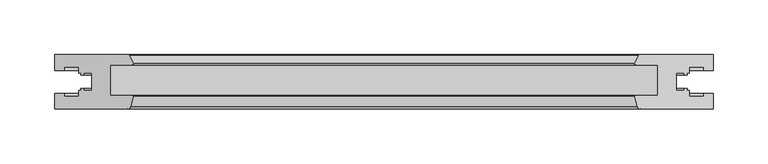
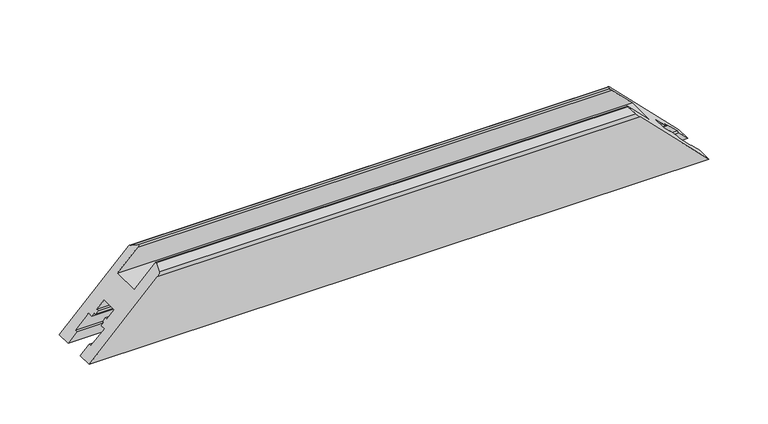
"""IFC4 building model written with IfcOpenShell, lengths in millimetres: proxy geometry, Weiku - Montante - Folha de correr 02.2.01.020 : Weiku - Montante - Folha de correr 02.2.01.020."""

import ifcopenshell
import ifcopenshell.guid

model = None  # the IFC model being written
_history = None  # IfcOwnerHistory: only IFC2X3 demands one
_inside = {}  # id of a spatial element -> (the spatial element, [elements in it])
_under = {}  # id of a project, library or spatial element -> (it, [spatial elements below it])
_declared = {}  # id of a project -> (the project, [libraries it declares])
_typed = {}  # id of a type object -> (the type object, [elements of that type])
_made_of = {}  # id of a material, layer set ... -> (it, [elements and type objects made of it])


def new_model(schema):
    """Start an empty IFC model of exactly this schema.

    Asked for "IFC4X3", IfcOpenShell would pick the latest addendum, in which some entities
    have other attributes; the version numbers below select the first issue.
    IFC2X3 requires an IfcOwnerHistory on every rooted entity: one is made here for all.
    """
    global model, _history
    if schema == "IFC4X3":
        model = ifcopenshell.file(schema_version=(4, 3, 0, 0))
    else:
        model = ifcopenshell.file(schema=schema)
    _inside.clear()
    _under.clear()
    _declared.clear()
    _typed.clear()
    _made_of.clear()
    _history = None
    if model.schema == "IFC2X3":
        org = make("IfcOrganization", Name="unknown")
        user = make(
            "IfcPersonAndOrganization",
            ThePerson=make("IfcPerson", FamilyName="unknown"),
            TheOrganization=org,
        )
        app = make(
            "IfcApplication",
            ApplicationDeveloper=org,
            Version="unknown",
            ApplicationFullName="unknown",
            ApplicationIdentifier="unknown",
        )
        _history = make(
            "IfcOwnerHistory",
            OwningUser=user,
            OwningApplication=app,
            ChangeAction="ADDED",
            CreationDate=0,
        )
    return model


def make(cls, **values):
    """One entity of the class cls with the attributes given. An attribute that is None is left unset."""
    return model.create_entity(
        cls, **{name: value for name, value in values.items() if value is not None}
    )


def rooted(cls, **values):
    """An entity with a GlobalId (a new one), such as an element, a storey or a relation."""
    return make(cls, GlobalId=ifcopenshell.guid.new(), OwnerHistory=_history, **values)


def si_unit(unit_type, name, prefix=None):
    """IfcSIUnit, for example si_unit("LENGTHUNIT", "METRE", prefix="MILLI")."""
    return make("IfcSIUnit", UnitType=unit_type, Prefix=prefix, Name=name)


def assignment(units):
    """IfcUnitAssignment: the units of a project."""
    return None if units is None else make("IfcUnitAssignment", Units=units)


def point(xyz):
    """IfcCartesianPoint."""
    return None if xyz is None else make("IfcCartesianPoint", Coordinates=xyz)


def direction(xyz):
    """IfcDirection."""
    return None if xyz is None else make("IfcDirection", DirectionRatios=xyz)


def frame(location, z_axis=None, x_axis=None):
    """IfcAxis2Placement3D, a coordinate frame: its origin and axes. An axis left out is left unset."""
    return make(
        "IfcAxis2Placement3D",
        Location=point(location),
        Axis=direction(z_axis),
        RefDirection=direction(x_axis),
    )


def origin():
    """The frame at (0, 0, 0) with its axes left unset."""
    return frame((0.0, 0.0, 0.0))


def place(relative_to, where):
    """IfcLocalPlacement: puts the frame where relative to a parent placement (None: the world)."""
    return make(
        "IfcLocalPlacement", PlacementRelTo=relative_to, RelativePlacement=where
    )


def context(
    kind, dimensions, precision=None, world=None, true_north=None, identifier=None
):
    """IfcGeometricRepresentationContext, for example the 3D "Model" context."""
    return make(
        "IfcGeometricRepresentationContext",
        ContextIdentifier=identifier,
        ContextType=kind,
        CoordinateSpaceDimension=dimensions,
        Precision=precision,
        WorldCoordinateSystem=world,
        TrueNorth=true_north,
    )


def project(units=None, contexts=None):
    """IfcProject with its units and contexts."""
    return rooted(
        "IfcProject",
        Name="project",
        RepresentationContexts=contexts,
        UnitsInContext=assignment(units),
    )


def spatial(cls, under=None, at=None, **own):
    """A site, building, storey or space (cls), placed at a placement, below another one or the project."""
    s = rooted(cls, ObjectPlacement=at, **own)
    if under is not None:
        _under.setdefault(under.id(), (under, []))[1].append(s)
    return s


def ellipse_curve(where, semi_axis1, semi_axis2):
    """IfcEllipse in the frame where."""
    return make(
        "IfcEllipse", Position=where, SemiAxis1=semi_axis1, SemiAxis2=semi_axis2
    )


def shape(context_of_items, identifier, shape_type, items):
    """IfcShapeRepresentation: the items that make up one representation, for example the "Body"."""
    return make(
        "IfcShapeRepresentation",
        ContextOfItems=context_of_items,
        RepresentationIdentifier=identifier,
        RepresentationType=shape_type,
        Items=items,
    )


def source(mapping_origin, context_of_items, identifier, shape_type, items):
    """IfcRepresentationMap: a shape defined once, which mapped items show again and again."""
    return make(
        "IfcRepresentationMap",
        MappingOrigin=mapping_origin,
        MappedRepresentation=shape(context_of_items, identifier, shape_type, items),
    )


def transform(
    local_origin,
    x_axis=None,
    y_axis=None,
    z_axis=None,
    scale=None,
    scale2=None,
    scale3=None,
    uniform=True,
):
    """IfcCartesianTransformationOperator3D, or its non-uniform kind. x_axis, y_axis, z_axis: its Axis1, 2, 3."""
    if uniform:
        return make(
            "IfcCartesianTransformationOperator3D",
            Axis1=direction(x_axis),
            Axis2=direction(y_axis),
            LocalOrigin=point(local_origin),
            Scale=scale,
            Axis3=direction(z_axis),
        )
    return make(
        "IfcCartesianTransformationOperator3DnonUniform",
        Axis1=direction(x_axis),
        Axis2=direction(y_axis),
        LocalOrigin=point(local_origin),
        Scale=scale,
        Axis3=direction(z_axis),
        Scale2=scale2,
        Scale3=scale3,
    )


def mapped(mapping_source, mapping_target):
    """IfcMappedItem: shows the shape of a source again, moved by a transform."""
    return make(
        "IfcMappedItem", MappingSource=mapping_source, MappingTarget=mapping_target
    )


def made_of(thing, what):
    """Note that an element or type object is made of a material, layer set ...; save() writes the relation."""
    if what is not None:
        _made_of.setdefault(what.id(), (what, []))[1].append(thing)
    return thing


def element(
    cls,
    number,
    at=None,
    inside=None,
    cuts=None,
    type_object=None,
    material=None,
    context=None,
    identifier="Body",
    shape_type=None,
    held_by="IfcProductDefinitionShape",
    body=None,
    shapes=None,
    **own,
):
    """One element of the class cls, such as IfcWall. Its Tag is "e" and its number.

    at: its placement. inside: the storey or other place that contains it. cuts: it is an
    opening in that element (IfcRelVoidsElement). A single representation is given by context,
    identifier, shape_type and body (its items); several are given by shapes. held_by: the class
    of the entity that holds the representations. save() writes the other relations.
    """
    e = rooted(cls, Tag="e%d" % number, ObjectPlacement=at, **own)
    if body is not None:
        shapes = [shape(context, identifier, shape_type, body)]
    if shapes is not None:
        e.Representation = make(held_by, Representations=shapes)
    if inside is not None:
        _inside.setdefault(inside.id(), (inside, []))[1].append(e)
    if cuts is not None:
        rooted(
            "IfcRelVoidsElement", RelatingBuildingElement=cuts, RelatedOpeningElement=e
        )
    if type_object is not None:
        _typed.setdefault(type_object.id(), (type_object, []))[1].append(e)
    return made_of(e, material)


def aggregate(whole, parts):
    """IfcRelAggregates: a whole, such as a stair, and the parts it consists of."""
    return rooted("IfcRelAggregates", RelatingObject=whole, RelatedObjects=parts)


def save(model, path):
    """Write the relations noted so far, then the file.

    IfcRelAggregates (storeys below a building ...), IfcRelContainedInSpatialStructure (elements
    in a storey), IfcRelDefinesByType, IfcRelAssociatesMaterial and IfcRelDeclares: one each for
    every whole, place, type object, material and project.
    """
    for whole, parts in _under.values():
        aggregate(whole, parts)
    for where, things in _inside.values():
        rooted(
            "IfcRelContainedInSpatialStructure",
            RelatedElements=things,
            RelatingStructure=where,
        )
    for kind, things in _typed.values():
        rooted("IfcRelDefinesByType", RelatedObjects=things, RelatingType=kind)
    for what, things in _made_of.values():
        rooted("IfcRelAssociatesMaterial", RelatedObjects=things, RelatingMaterial=what)
    for by, libraries in _declared.values():
        rooted("IfcRelDeclares", RelatingContext=by, RelatedDefinitions=libraries)
    model.write(path)


def plane_surface(at):
    """IfcPlane: the flat surface through the origin of the frame at, square to its z axis."""
    return make("IfcPlane", Position=at)


def cylinder_surface(at, radius):
    """IfcCylindricalSurface: all points at the distance radius from the z axis of the frame at."""
    return make("IfcCylindricalSurface", Position=at, Radius=radius)


def advanced_brep(points, edges, surfaces, faces):
    """IfcAdvancedBrep: a solid bounded by faces that lie on surfaces and meet in shared edges.

    An edge is (start, end): straight between two places in points (the first is 0);
    or (start, end, curve); or (start, end, curve, False) where it runs against its curve.
    A face is (place in surfaces, loops), or (place, loops, False) where it looks against
    its surface's normal. A loop lists edges by number (the first is 1), with a minus sign
    where the edge is run from its end to its start. The first loop is the outer one.
    """
    corners = [point(p) for p in points]
    vertices = [make("IfcVertexPoint", VertexGeometry=c) for c in corners]
    made = []
    for start, end, *more in edges:
        made.append(
            make(
                "IfcEdgeCurve",
                EdgeStart=vertices[start],
                EdgeEnd=vertices[end],
                EdgeGeometry=more[0] if more else make("IfcPolyline", Points=[corners[start], corners[end]]),
                SameSense=more[1] if len(more) > 1 else True,
            )
        )
    hull = []
    for where, loops, *sense in faces:
        bounds = []
        for j, loop in enumerate(loops):
            ring = [make("IfcOrientedEdge", EdgeElement=made[abs(k) - 1], Orientation=k > 0) for k in loop]
            bounds.append(
                make(
                    "IfcFaceOuterBound" if j == 0 else "IfcFaceBound",
                    Bound=make("IfcEdgeLoop", EdgeList=ring),
                    Orientation=True,
                )
            )
        hull.append(make("IfcAdvancedFace", Bounds=bounds, FaceSurface=surfaces[where], SameSense=sense[0] if sense else True))
    return make("IfcAdvancedBrep", Outer=make("IfcClosedShell", CfsFaces=hull))


def generic_models_48fad249(model_context):
    return source(origin(), model_context, "Body", "AdvancedBrep", [
        advanced_brep(
        [(301.125, -50.0, 0.0), (234.6254942, -50.0, 66.4995058), (-234.6254942, -50.0, 66.4995058), (-301.125, -50.0, 0.0), (-301.125, -35.5, 0.0), (301.125, -35.5, 0.0), (-301.125, 0.0, 0.0), (-233.6129875, 0.0, 67.5120125), (233.6129875, 0.0, 67.5120125), (301.125, 0.0, 0.0), (-231.7277168, -47.7764571, 69.3972832), (-229.1427981, -38.1294095, 71.9822019), (-229.6257611, -37.5, 71.4992389), (-250.1257611, -37.5, 50.9992389), (-250.1257611, -9.5, 50.9992389), (-230.3391895, -9.5, 70.7858105), (-229.1770406, -7.617411, 71.9479594), (-232.7190268, -0.5518546, 68.4059732), (-301.125, -14.5, 0.0), (-292.525, -14.5, 8.6), (-292.525, -11.7, 8.6), (-279.325, -11.7, 21.8), (-279.325, -16.9, 21.8), (-276.9774152, -16.9, 24.1475848), (-277.1523926, -18.9, 23.9726074), (-274.325, -18.9, 26.8), (-274.325, -16.9, 26.8), (-267.125, -16.9, 34.0), (-267.125, -33.1, 34.0), (-274.325, -33.1, 26.8), (-274.325, -31.1, 26.8), (-277.1523926, -31.1, 23.9726074), (-276.9774152, -33.1, 24.1475848), (-279.325, -33.1, 21.8), (-279.325, -38.3, 21.8), (-292.525, -38.3, 8.6), (-292.525, -35.5, 8.6), (292.525, -35.5, 8.6), (292.525, -38.3, 8.6), (279.325, -38.3, 21.8), (279.325, -33.1, 21.8), (276.9774152, -33.1, 24.1475848), (277.1523926, -31.1, 23.9726074), (274.325, -31.1, 26.8), (274.325, -33.1, 26.8), (267.125, -33.1, 34.0), (267.125, -16.9, 34.0), (274.325, -16.9, 26.8), (274.325, -18.9, 26.8), (277.1523926, -18.9, 23.9726074), (276.9774152, -16.9, 24.1475848), (279.325, -16.9, 21.8), (279.325, -11.7, 21.8), (292.525, -11.7, 8.6), (292.525, -14.5, 8.6), (301.125, -14.5, 0.0), (232.7190268, -0.5518546, 68.4059732), (229.1770406, -7.617411, 71.9479594), (230.3391895, -9.5, 70.7858105), (250.1257611, -9.5, 50.9992389), (250.1257611, -37.5, 50.9992389), (229.6257611, -37.5, 71.4992389), (229.1427981, -38.1294095, 71.9822019), (231.7277168, -47.7764571, 69.3972832)],
        [
            (0, 1),
            (1, 2),
            (2, 3),
            (3, 0),
            (3, 4),
            (4, 5),
            (5, 0),
            (6, 7),
            (7, 8),
            (8, 9),
            (9, 6),
            (2, 10, ellipse_curve(frame((-234.6254942, -47.0, 66.4995058), z_axis=(-0.7071067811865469, 0.0, 0.7071067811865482), x_axis=(-0.707106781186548, 0.0, -0.7071067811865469)), 4.2426407, 3.0)),
            (10, 11),
            (11, 12, ellipse_curve(frame((-229.6257611, -38.0, 71.4992389), z_axis=(-0.7071067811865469, 0.0, 0.7071067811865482), x_axis=(-0.707106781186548, 0.0, -0.7071067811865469)), 0.7071068, 0.5)),
            (12, 13),
            (13, 14),
            (14, 15),
            (15, 16, ellipse_curve(frame((-230.3391895, -8.2, 70.7858105), z_axis=(-0.7071067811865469, 0.0, 0.7071067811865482), x_axis=(-0.707106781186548, 0.0, -0.7071067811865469)), 1.8384776, 1.3)),
            (16, 17),
            (17, 7, ellipse_curve(frame((-233.6129875, -1.0, 67.5120125), z_axis=(-0.7071067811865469, 0.0, 0.7071067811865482), x_axis=(-0.707106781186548, 0.0, -0.7071067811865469)), 1.4142136, 1.0)),
            (6, 18),
            (18, 19),
            (19, 20),
            (20, 21),
            (21, 22),
            (22, 23),
            (23, 24),
            (24, 25),
            (25, 26),
            (26, 27),
            (27, 28),
            (28, 29),
            (29, 30),
            (30, 31),
            (31, 32),
            (32, 33),
            (33, 34),
            (34, 35),
            (35, 36),
            (36, 4),
            (5, 37),
            (37, 38),
            (38, 39),
            (39, 40),
            (40, 41),
            (41, 42),
            (42, 43),
            (43, 44),
            (44, 45),
            (45, 46),
            (46, 47),
            (47, 48),
            (48, 49),
            (49, 50),
            (50, 51),
            (51, 52),
            (52, 53),
            (53, 54),
            (54, 55),
            (55, 9),
            (8, 56, ellipse_curve(frame((233.6129875, -1.0, 67.5120125), z_axis=(0.7071067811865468, 0.0, 0.7071067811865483), x_axis=(-0.7071067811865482, 0.0, 0.7071067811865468)), 1.4142136, 1.0)),
            (56, 57),
            (57, 58, ellipse_curve(frame((230.3391895, -8.2, 70.7858105), z_axis=(0.7071067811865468, 0.0, 0.7071067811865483), x_axis=(-0.7071067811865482, 0.0, 0.7071067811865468)), 1.8384776, 1.3)),
            (58, 59),
            (59, 60),
            (60, 61),
            (61, 62, ellipse_curve(frame((229.6257611, -38.0, 71.4992389), z_axis=(0.7071067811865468, 0.0, 0.7071067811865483), x_axis=(-0.7071067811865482, 0.0, 0.7071067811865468)), 0.7071068, 0.5)),
            (62, 63),
            (63, 1, ellipse_curve(frame((234.6254942, -47.0, 66.4995058), z_axis=(0.7071067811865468, 0.0, 0.7071067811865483), x_axis=(-0.7071067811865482, 0.0, 0.7071067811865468)), 4.2426407, 3.0)),
            (17, 56),
            (16, 57),
            (15, 58),
            (14, 59),
            (13, 60),
            (12, 61),
            (11, 62),
            (10, 63),
            (36, 37),
            (35, 38),
            (34, 39),
            (33, 40),
            (32, 41),
            (31, 42),
            (30, 43),
            (29, 44),
            (28, 45),
            (27, 46),
            (26, 47),
            (25, 48),
            (24, 49),
            (23, 50),
            (22, 51),
            (21, 52),
            (20, 53),
            (19, 54),
            (18, 55),
        ],
        [
            plane_surface(frame((-301.125, -50.0, 66.4995058), z_axis=(0.0, -1.0, 0.0), x_axis=(1.0, 0.0, 0.0))),
            plane_surface(frame((-301.125, -50.0, 0.0), z_axis=(0.0, 0.0, -1.0), x_axis=(1.0, 0.0, 0.0))),
            plane_surface(frame((-301.125, 0.0, 0.0), z_axis=(0.0, 1.0, 0.0), x_axis=(1.0, 0.0, 0.0))),
            plane_surface(frame((-329.4092712, 0.0, -28.2842712), z_axis=(-0.7071067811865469, 0.0, 0.7071067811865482), x_axis=(0.0, -1.0, 0.0))),
            plane_surface(frame((221.125, 0.0, 80.0), z_axis=(0.7071067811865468, 0.0, 0.7071067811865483), x_axis=(0.0, -1.0, 0.0))),
            cylinder_surface(frame((-301.125, -1.0, 67.5120125), z_axis=(-1.0, 0.0, 0.0), x_axis=(0.0, -1.0, 0.0)), 1.0),
            plane_surface(frame((-301.125, -0.5518546, 68.4059732), z_axis=(0.0, 0.4481453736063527, 0.8939606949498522), x_axis=(1.0, 0.0, 0.0))),
            cylinder_surface(frame((-301.125, -8.2, 70.7858105), z_axis=(-1.0, 0.0, 0.0), x_axis=(0.0, -1.0, 0.0)), 1.3),
            plane_surface(frame((-301.125, -9.5, 70.7858105), z_axis=(0.0, -1.0, 0.0), x_axis=(1.0, 0.0, 0.0))),
            plane_surface(frame((-301.125, -9.5, 50.9992389), z_axis=(0.0, 0.0, 1.0), x_axis=(1.0, 0.0, 0.0))),
            plane_surface(frame((-301.125, -37.5, 50.9992389), z_axis=(0.0, 1.0, 0.0), x_axis=(1.0, 0.0, 0.0))),
            cylinder_surface(frame((-301.125, -38.0, 71.4992389), z_axis=(-1.0, 0.0, 0.0), x_axis=(0.0, -1.0, 0.0)), 0.5),
            plane_surface(frame((-301.125, -38.1294095, 71.9822019), z_axis=(0.0, -0.2588190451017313, 0.9659258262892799), x_axis=(1.0, 0.0, 0.0))),
            cylinder_surface(frame((-301.125, -47.0, 66.4995058), z_axis=(-1.0, 0.0, 0.0), x_axis=(0.0, -1.0, 0.0)), 3.0),
            plane_surface(frame((-301.125, -35.5, 0.0), z_axis=(0.0, 1.0, 0.0), x_axis=(1.0, 0.0, 0.0))),
            plane_surface(frame((-301.125, -35.5, 8.6), z_axis=(0.0, 0.0, 1.0), x_axis=(1.0, 0.0, 0.0))),
            plane_surface(frame((-301.125, -38.3, 8.6), z_axis=(0.0, 1.0, 0.0), x_axis=(1.0, 0.0, 0.0))),
            plane_surface(frame((-301.125, -38.3, 21.8), z_axis=(0.0, 0.0, -1.0), x_axis=(1.0, 0.0, 0.0))),
            plane_surface(frame((-301.125, -33.1, 21.8), z_axis=(0.0, 1.0, 0.0), x_axis=(1.0, 0.0, 0.0))),
            plane_surface(frame((-301.125, -33.1, 24.1475848), z_axis=(0.0, -0.08715574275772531, -0.9961946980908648), x_axis=(1.0, 0.0, 0.0))),
            plane_surface(frame((-301.125, -31.1, 23.9726074), z_axis=(0.0, 1.0, 0.0), x_axis=(1.0, 0.0, 0.0))),
            plane_surface(frame((-301.125, -31.1, 26.8), z_axis=(0.0, 0.0, 1.0), x_axis=(1.0, 0.0, 0.0))),
            plane_surface(frame((-301.125, -33.1, 26.8), z_axis=(0.0, 1.0, 0.0), x_axis=(1.0, 0.0, 0.0))),
            plane_surface(frame((-301.125, -33.1, 34.0), z_axis=(0.0, 0.0, -1.0), x_axis=(1.0, 0.0, 0.0))),
            plane_surface(frame((-301.125, -16.9, 34.0), z_axis=(0.0, -1.0, 0.0), x_axis=(1.0, 0.0, 0.0))),
            plane_surface(frame((-301.125, -16.9, 26.8), z_axis=(0.0, 0.0, 1.0), x_axis=(1.0, 0.0, 0.0))),
            plane_surface(frame((-301.125, -18.9, 26.8), z_axis=(0.0, -1.0, 0.0), x_axis=(1.0, 0.0, 0.0))),
            plane_surface(frame((-301.125, -18.9, 23.9726074), z_axis=(0.0, 0.08715574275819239, -0.9961946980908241), x_axis=(1.0, 0.0, 0.0))),
            plane_surface(frame((-301.125, -16.9, 24.1475848), z_axis=(0.0, -1.0, 0.0), x_axis=(1.0, 0.0, 0.0))),
            plane_surface(frame((-301.125, -16.9, 21.8), z_axis=(0.0, 0.0, -1.0), x_axis=(1.0, 0.0, 0.0))),
            plane_surface(frame((-301.125, -11.7, 21.8), z_axis=(0.0, -1.0, 0.0), x_axis=(1.0, 0.0, 0.0))),
            plane_surface(frame((-301.125, -11.7, 8.6), z_axis=(0.0, 0.0, 1.0), x_axis=(1.0, 0.0, 0.0))),
            plane_surface(frame((-301.125, -14.5, 8.6), z_axis=(0.0, -1.0, 0.0), x_axis=(1.0, 0.0, 0.0))),
            plane_surface(frame((-301.125, -14.5, 0.0), z_axis=(0.0, 0.0, -1.0), x_axis=(1.0, 0.0, 0.0))),
        ],
        [
            (0, [[1, 2, 3, 4]]),
            (1, [[5, 6, 7, -4]]),
            (2, [[8, 9, 10, 11]]),
            (3, [[12, 13, 14, 15, 16, 17, 18, 19, 20, -8, 21, 22, 23, 24, 25, 26, 27, 28, 29, 30, 31, 32, 33, 34, 35, 36, 37, 38, 39, 40, -5, -3]]),
            (4, [[-7, 41, 42, 43, 44, 45, 46, 47, 48, 49, 50, 51, 52, 53, 54, 55, 56, 57, 58, 59, 60, -10, 61, 62, 63, 64, 65, 66, 67, 68, 69, -1]]),
            (5, [[70, -61, -9, -20]]),
            (6, [[71, -62, -70, -19]]),
            (7, [[72, -63, -71, -18]]),
            (8, [[73, -64, -72, -17]]),
            (9, [[74, -65, -73, -16]]),
            (10, [[75, -66, -74, -15]]),
            (11, [[76, -67, -75, -14]]),
            (12, [[77, -68, -76, -13]]),
            (13, [[-2, -69, -77, -12]]),
            (14, [[-40, 78, -41, -6]]),
            (15, [[79, -42, -78, -39]]),
            (16, [[80, -43, -79, -38]]),
            (17, [[81, -44, -80, -37]]),
            (18, [[82, -45, -81, -36]]),
            (19, [[83, -46, -82, -35]]),
            (20, [[84, -47, -83, -34]]),
            (21, [[85, -48, -84, -33]]),
            (22, [[86, -49, -85, -32]]),
            (23, [[87, -50, -86, -31]]),
            (24, [[88, -51, -87, -30]]),
            (25, [[89, -52, -88, -29]]),
            (26, [[90, -53, -89, -28]]),
            (27, [[91, -54, -90, -27]]),
            (28, [[92, -55, -91, -26]]),
            (29, [[93, -56, -92, -25]]),
            (30, [[94, -57, -93, -24]]),
            (31, [[95, -58, -94, -23]]),
            (32, [[-59, -95, -22, 96]]),
            (33, [[-60, -96, -21, -11]]),
        ],
    ),
    ])


if __name__ == "__main__":
    model = new_model("IFC4")
    model_context = context("Model", 3, world=origin())
    ifc_project = project(units=[si_unit("LENGTHUNIT", "METRE", prefix="MILLI")], contexts=[model_context])
    site = spatial("IfcSite", under=ifc_project)
    building = spatial("IfcBuilding", under=site)
    placement = place(None, origin())
    generic_models_shape = generic_models_48fad249(model_context)
    element("IfcBuildingElementProxy", 1, Name="Weiku - Montante - Folha de correr 02.2.01.020 : Weiku - Montante - Folha de correr 02.2.01.020", ObjectType="Weiku - Montante - Folha de correr 02.2.01.020 : Weiku - Montante - Folha de correr 02.2.01.020", at=placement, inside=building, context=model_context, shape_type="MappedRepresentation", body=[
        mapped(generic_models_shape, transform((0.0, 0.0, 0.0), x_axis=(1.0, 0.0, 0.0), y_axis=(0.0, 1.0, 0.0), z_axis=(0.0, 0.0, 1.0))),
    ])
    save(model, "model.ifc")
